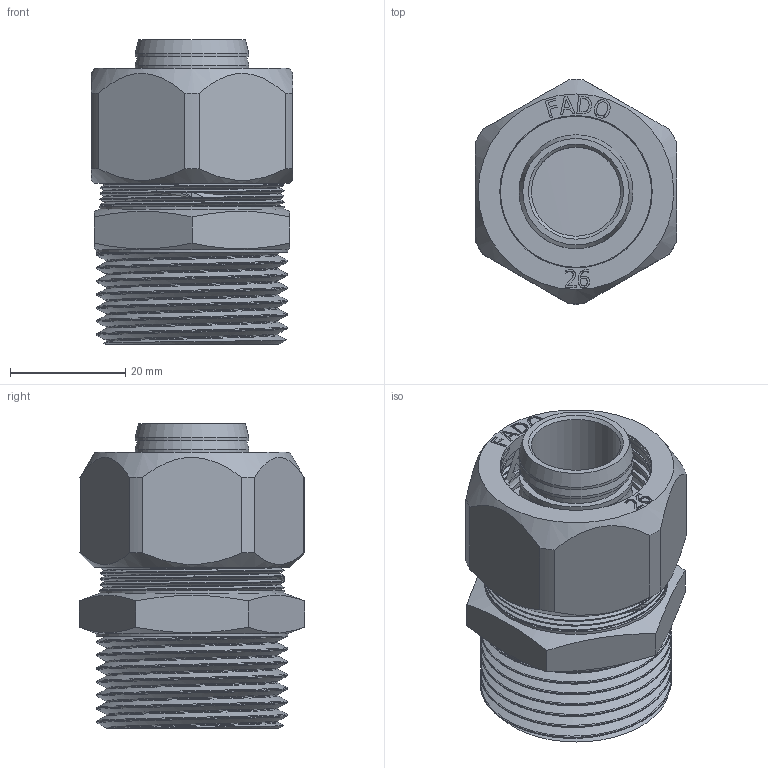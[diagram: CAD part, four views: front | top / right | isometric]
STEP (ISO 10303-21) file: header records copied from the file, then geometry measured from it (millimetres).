
FILE_DESCRIPTION(/* description */ (''),/* implementation_level */ '2;1');
FILE_NAME(/* name */ 'C:\Users\Doom\Desktop\Фадотех\Обжим\RFM25 26x1M 18.11.2021\RFM25 26x1M 18.11.2021.stp',/* time_stamp */ '2022-06-01T22:15:15+03:00',/* author */ ('Doom'),/* organization */ (''),/* preprocessor_version */ 'ST-DEVELOPER v18',/* originating_system */ 'Autodesk Inventor 2020',/* authorisation */ '');
FILE_SCHEMA (('AUTOMOTIVE_DESIGN { 1 0 10303 214 3 1 1 }'));
Products named in the file (5): RFM25 26x1M 18.11.2021; RFM25 26x1M 18.11.2021_1; FADO MC Nut-26 15.02.2020; FADO MC Socket-26 15.02.2020; Olive 26 15.02.2020
Assembly tree (4 placements, depth 2):
  RFM25 26x1M 18.11.2021
    RFM25 26x1M 18.11.2021_1
    FADO MC Nut-26 15.02.2020
    FADO MC Socket-26 15.02.2020
    Olive 26 15.02.2020
Bounding box: 35 x 39.26 x 53 mm (x, y, z)
Volume: 23775.1 mm3; surface area: 30302.4 mm2
Topology: 7 solids, 7 shells, 528 faces, 1458 edges, 986 vertices
Faces by surface type: bspline 272, plane 143, cylinder 92, cone 19, torus 2
Full cylindrical faces by diameter (mm): 15.5 x1, 17.6 x2, 19.8 x5, 21 x1, 24 x2, 24.5 x1, 25 x1, 26.5 x1, 29.816 x2, 30 x1, 30.517 x13, 30.6 x1, 32 x14, 33.24 x6
Entity records: 36694 total; most frequent: CARTESIAN_POINT 24857, ORIENTED_EDGE 2908, DIRECTION 1590, EDGE_CURVE 1454, VERTEX_POINT 984, B_SPLINE_CURVE_WITH_KNOTS 629, EDGE_LOOP 584, LINE 534
